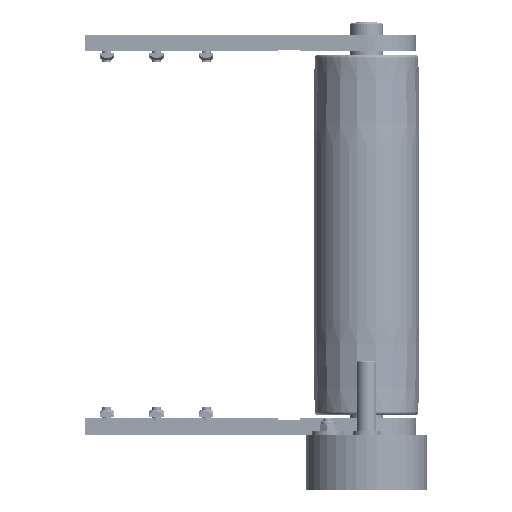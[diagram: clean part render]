
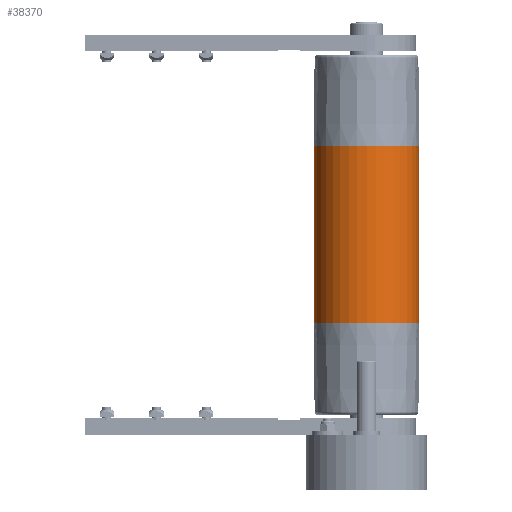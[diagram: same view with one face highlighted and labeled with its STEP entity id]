
A CAD part, front view. The second image highlights one B-rep face of the part: STEP entity #38370.
In plain terms, the highlighted cylindrical face has radius 47.5 mm (diameter 95 mm), a partial arc.
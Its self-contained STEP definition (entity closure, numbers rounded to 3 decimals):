
#202 = ORIENTED_EDGE ( 'NONE', *, *, #74545, .F. ) ;
#203 = ORIENTED_EDGE ( 'NONE', *, *, #73929, .F. ) ;
#204 = ORIENTED_EDGE ( 'NONE', *, *, #74541, .T. ) ;
#205 = ORIENTED_EDGE ( 'NONE', *, *, #73922, .T. ) ;
#1000 = VERTEX_POINT ( 'NONE', #20877 ) ;
#1001 = VERTEX_POINT ( 'NONE', #20879 ) ;
#1003 = VERTEX_POINT ( 'NONE', #20883 ) ;
#1004 = VERTEX_POINT ( 'NONE', #20884 ) ;
#11182 = EDGE_LOOP ( 'NONE', ( #202, #203, #204, #205 ) ) ;
#16201 = CIRCLE ( 'NONE', #16211, 47.5 ) ;
#16211 = AXIS2_PLACEMENT_3D ( 'NONE', #17668, #17669, #17670 ) ;
#16218 = CIRCLE ( 'NONE', #16228, 47.5 ) ;
#16228 = AXIS2_PLACEMENT_3D ( 'NONE', #17682, #17683, #17684 ) ;
#16933 = VECTOR ( 'NONE', #18676, 1000. ) ;
#16936 = VECTOR ( 'NONE', #18670, 1000. ) ;
#17668 = CARTESIAN_POINT ( 'NONE',  ( -80., 0., 0. ) ) ;
#17669 = DIRECTION ( 'NONE',  ( 1., 0., 0. ) ) ;
#17670 = DIRECTION ( 'NONE',  ( 0., 0., -1. ) ) ;
#17682 = CARTESIAN_POINT ( 'NONE',  ( 80., 0., 0. ) ) ;
#17683 = DIRECTION ( 'NONE',  ( 1., 0., 0. ) ) ;
#17684 = DIRECTION ( 'NONE',  ( 0., 0., -1. ) ) ;
#18661 = LINE ( 'NONE', #18662, #16936 ) ;
#18662 = CARTESIAN_POINT ( 'NONE',  ( 160., 0., 47.5 ) ) ;
#18666 = CARTESIAN_POINT ( 'NONE',  ( 160., 0., -47.5 ) ) ;
#18670 = DIRECTION ( 'NONE',  ( -1., 0., 0. ) ) ;
#18672 = LINE ( 'NONE', #18666, #16933 ) ;
#18676 = DIRECTION ( 'NONE',  ( -1., 0., 0. ) ) ;
#20877 = CARTESIAN_POINT ( 'NONE',  ( 80., 0., -47.5 ) ) ;
#20879 = CARTESIAN_POINT ( 'NONE',  ( 80., 0., 47.5 ) ) ;
#20883 = CARTESIAN_POINT ( 'NONE',  ( -80., 0., -47.5 ) ) ;
#20884 = CARTESIAN_POINT ( 'NONE',  ( -80., 0., 47.5 ) ) ;
#38370 = ADVANCED_FACE ( 'NONE', ( #80285 ), #80287, .T. ) ;
#73922 = EDGE_CURVE ( 'NONE', #1004, #1003, #16201, .T. ) ;
#73929 = EDGE_CURVE ( 'NONE', #1001, #1000, #16218, .T. ) ;
#74541 = EDGE_CURVE ( 'NONE', #1001, #1004, #18661, .T. ) ;
#74545 = EDGE_CURVE ( 'NONE', #1000, #1003, #18672, .T. ) ;
#79289 = AXIS2_PLACEMENT_3D ( 'NONE', #80286, #80277, #80288 ) ;
#80277 = DIRECTION ( 'NONE',  ( -1., 0., 0. ) ) ;
#80285 = FACE_OUTER_BOUND ( 'NONE', #11182, .T. ) ;
#80286 = CARTESIAN_POINT ( 'NONE',  ( 160., 0., 0. ) ) ;
#80287 = CYLINDRICAL_SURFACE ( 'NONE', #79289, 47.5 ) ;
#80288 = DIRECTION ( 'NONE',  ( 0., 0., 1. ) ) ;
